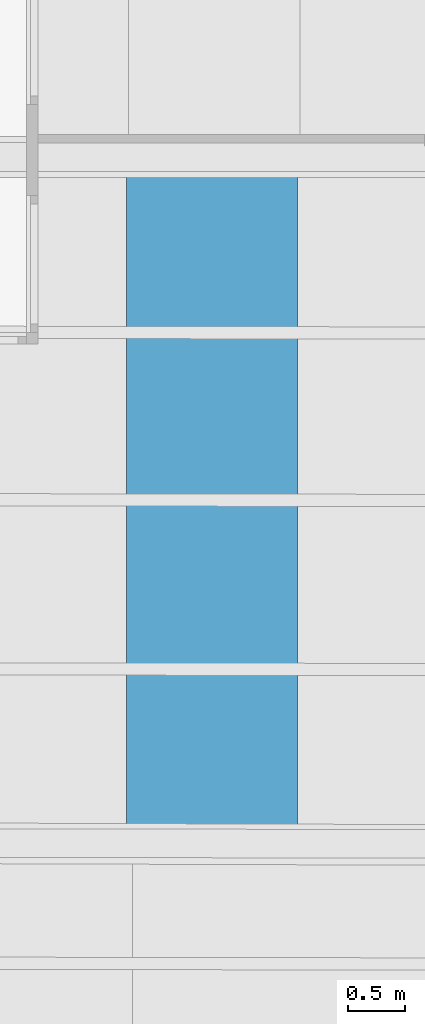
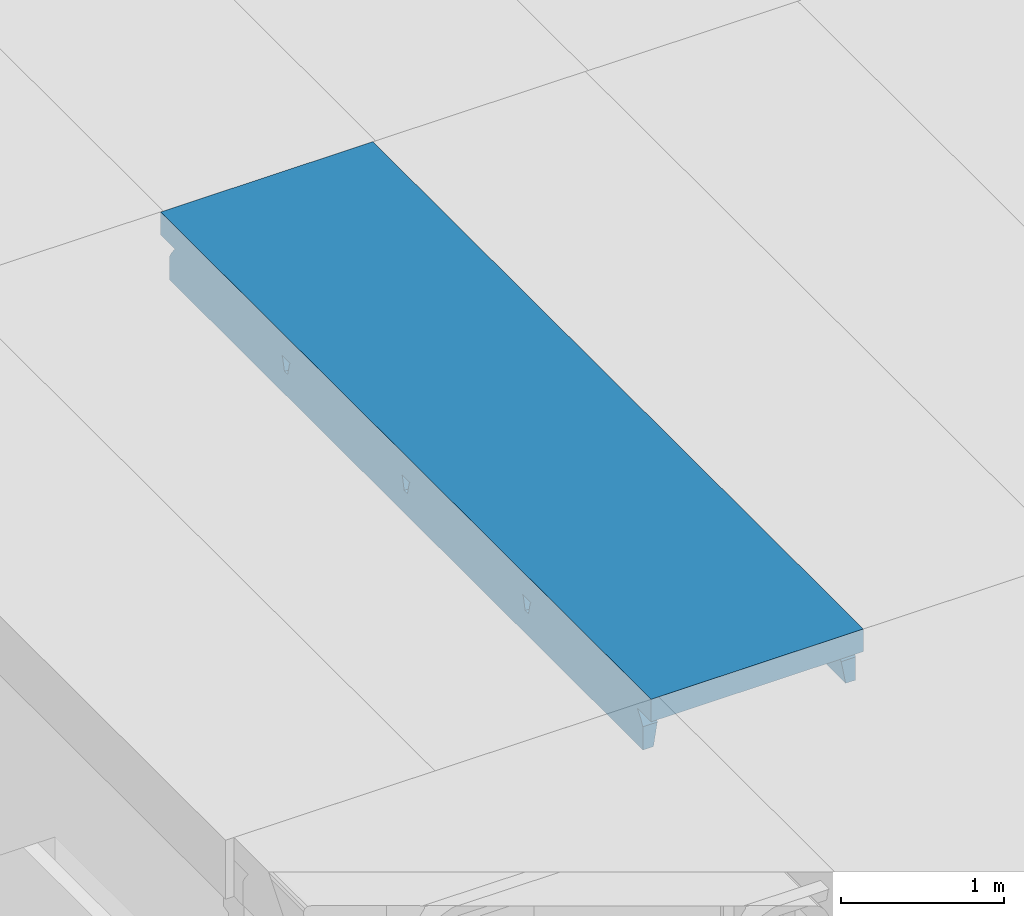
# One storey, part 31 of 301: 1 beam.
"""IFC2X3 building model written with IfcOpenShell, lengths in millimetres."""

import ifcopenshell
import ifcopenshell.guid

model = None  # the IFC model being written
_history = None  # IfcOwnerHistory: only IFC2X3 demands one
_inside = {}  # id of a spatial element -> (the spatial element, [elements in it])
_under = {}  # id of a project, library or spatial element -> (it, [spatial elements below it])
_declared = {}  # id of a project -> (the project, [libraries it declares])
_typed = {}  # id of a type object -> (the type object, [elements of that type])
_made_of = {}  # id of a material, layer set ... -> (it, [elements and type objects made of it])


def new_model(schema):
    """Start an empty IFC model of exactly this schema.

    Asked for "IFC4X3", IfcOpenShell would pick the latest addendum, in which some entities
    have other attributes; the version numbers below select the first issue.
    IFC2X3 requires an IfcOwnerHistory on every rooted entity: one is made here for all.
    """
    global model, _history
    if schema == "IFC4X3":
        model = ifcopenshell.file(schema_version=(4, 3, 0, 0))
    else:
        model = ifcopenshell.file(schema=schema)
    _inside.clear()
    _under.clear()
    _declared.clear()
    _typed.clear()
    _made_of.clear()
    _history = None
    if model.schema == "IFC2X3":
        org = make("IfcOrganization", Name="unknown")
        user = make(
            "IfcPersonAndOrganization",
            ThePerson=make("IfcPerson", FamilyName="unknown"),
            TheOrganization=org,
        )
        app = make(
            "IfcApplication",
            ApplicationDeveloper=org,
            Version="unknown",
            ApplicationFullName="unknown",
            ApplicationIdentifier="unknown",
        )
        _history = make(
            "IfcOwnerHistory",
            OwningUser=user,
            OwningApplication=app,
            ChangeAction="ADDED",
            CreationDate=0,
        )
    return model


def make(cls, **values):
    """One entity of the class cls with the attributes given. An attribute that is None is left unset."""
    return model.create_entity(
        cls, **{name: value for name, value in values.items() if value is not None}
    )


def entity(cls, *values):
    """Any entity or typed value of the class cls, its attributes in the order of the schema. None: left unset."""
    e = model.create_entity(cls)
    for i, value in enumerate(values):
        if value is not None:
            e[i] = value
    return e


def rooted(cls, **values):
    """An entity with a GlobalId (a new one), such as an element, a storey or a relation."""
    return make(cls, GlobalId=ifcopenshell.guid.new(), OwnerHistory=_history, **values)


def si_unit(unit_type, name, prefix=None):
    """IfcSIUnit, for example si_unit("LENGTHUNIT", "METRE", prefix="MILLI")."""
    return make("IfcSIUnit", UnitType=unit_type, Prefix=prefix, Name=name)


def converted_unit(unit_type, name, factor, base, dimensions=None, offset=None):
    """IfcConversionBasedUnit, such as the inch: factor (a typed value) times the base unit."""
    return make(
        "IfcConversionBasedUnit"
        if offset is None
        else "IfcConversionBasedUnitWithOffset",
        ConversionOffset=offset,
        Dimensions=None
        if dimensions is None
        else entity("IfcDimensionalExponents", *dimensions),
        UnitType=unit_type,
        Name=name,
        ConversionFactor=make(
            "IfcMeasureWithUnit", ValueComponent=factor, UnitComponent=base
        ),
    )


def derived_unit(unit_type, elements):
    """IfcDerivedUnit: a product of units, each with its exponent."""
    return make(
        "IfcDerivedUnit",
        Elements=[
            make("IfcDerivedUnitElement", Unit=unit, Exponent=power)
            for unit, power in elements
        ],
        UnitType=unit_type,
    )


def money_unit(currency):
    """IfcMonetaryUnit."""
    return make("IfcMonetaryUnit", Currency=currency)


def assignment(units):
    """IfcUnitAssignment: the units of a project."""
    return None if units is None else make("IfcUnitAssignment", Units=units)


def point(xyz):
    """IfcCartesianPoint."""
    return None if xyz is None else make("IfcCartesianPoint", Coordinates=xyz)


def direction(xyz):
    """IfcDirection."""
    return None if xyz is None else make("IfcDirection", DirectionRatios=xyz)


def frame(location, z_axis=None, x_axis=None):
    """IfcAxis2Placement3D, a coordinate frame: its origin and axes. An axis left out is left unset."""
    return make(
        "IfcAxis2Placement3D",
        Location=point(location),
        Axis=direction(z_axis),
        RefDirection=direction(x_axis),
    )


def origin_with_axes():
    """The frame at (0, 0, 0) with the z axis (0, 0, 1) and the x axis (1, 0, 0) written out."""
    return frame((0.0, 0.0, 0.0), z_axis=(0.0, 0.0, 1.0), x_axis=(1.0, 0.0, 0.0))


def place(relative_to, where):
    """IfcLocalPlacement: puts the frame where relative to a parent placement (None: the world)."""
    return make(
        "IfcLocalPlacement", PlacementRelTo=relative_to, RelativePlacement=where
    )


def context(
    kind, dimensions, precision=None, world=None, true_north=None, identifier=None
):
    """IfcGeometricRepresentationContext, for example the 3D "Model" context."""
    return make(
        "IfcGeometricRepresentationContext",
        ContextIdentifier=identifier,
        ContextType=kind,
        CoordinateSpaceDimension=dimensions,
        Precision=precision,
        WorldCoordinateSystem=world,
        TrueNorth=true_north,
    )


def subcontext(parent, identifier, kind, view, scale=None):
    """IfcGeometricRepresentationSubContext, for example "Body" below "Model"."""
    return make(
        "IfcGeometricRepresentationSubContext",
        ContextIdentifier=identifier,
        ContextType=kind,
        ParentContext=parent,
        TargetScale=scale,
        TargetView=view,
    )


def project(units=None, contexts=None):
    """IfcProject with its units and contexts."""
    return rooted(
        "IfcProject",
        Name="project",
        RepresentationContexts=contexts,
        UnitsInContext=assignment(units),
    )


def spatial(cls, under=None, at=None, **own):
    """A site, building, storey or space (cls), placed at a placement, below another one or the project."""
    s = rooted(cls, ObjectPlacement=at, **own)
    if under is not None:
        _under.setdefault(under.id(), (under, []))[1].append(s)
    return s


def faces_of(points, faces, orient=None, outer=None):
    """IfcFace entities. A face is a list of loops; a loop is a list of indices into points, from 0.

    orient and outer hold one flag for each loop. By default every Orientation is true, the
    first loop of a face is its IfcFaceOuterBound and the others are IfcFaceBound.
    """
    made = []
    for i, loops in enumerate(faces):
        bounds = []
        for j, loop in enumerate(loops):
            is_outer = j == 0 if outer is None else outer[i][j]
            bounds.append(
                make(
                    "IfcFaceOuterBound" if is_outer else "IfcFaceBound",
                    Bound=make("IfcPolyLoop", Polygon=[points[k] for k in loop]),
                    Orientation=True if orient is None else orient[i][j],
                )
            )
        made.append(make("IfcFace", Bounds=bounds))
    return made


def faceted_brep(points, faces, orient=None, outer=None, voids=None):
    """IfcFacetedBrep: a solid bounded by flat faces; with voids (closed shells), ...WithVoids."""
    shared = [point(p) for p in points]
    hull = make("IfcClosedShell", CfsFaces=faces_of(shared, faces, orient, outer))
    if voids is None:
        return make("IfcFacetedBrep", Outer=hull)
    return make(
        "IfcFacetedBrepWithVoids",
        Outer=hull,
        Voids=[
            make(cls, CfsFaces=faces_of(shared, fs, o, b)) for cls, fs, o, b in voids
        ],
    )


def shape(context_of_items, identifier, shape_type, items):
    """IfcShapeRepresentation: the items that make up one representation, for example the "Body"."""
    return make(
        "IfcShapeRepresentation",
        ContextOfItems=context_of_items,
        RepresentationIdentifier=identifier,
        RepresentationType=shape_type,
        Items=items,
    )


def material(Name=None, Category=None):
    """IfcMaterial."""
    return make("IfcMaterial", Name=Name, Category=Category)


def made_of(thing, what):
    """Note that an element or type object is made of a material, layer set ...; save() writes the relation."""
    if what is not None:
        _made_of.setdefault(what.id(), (what, []))[1].append(thing)
    return thing


def type_object(cls, material=None, **own):
    """A type object (cls), such as IfcWallType, which elements share."""
    return made_of(rooted(cls, **own), material)


def element(
    cls,
    number,
    at=None,
    inside=None,
    cuts=None,
    type_object=None,
    material=None,
    context=None,
    identifier="Body",
    shape_type=None,
    held_by="IfcProductDefinitionShape",
    body=None,
    shapes=None,
    **own,
):
    """One element of the class cls, such as IfcWall. Its Tag is "e" and its number.

    at: its placement. inside: the storey or other place that contains it. cuts: it is an
    opening in that element (IfcRelVoidsElement). A single representation is given by context,
    identifier, shape_type and body (its items); several are given by shapes. held_by: the class
    of the entity that holds the representations. save() writes the other relations.
    """
    e = rooted(cls, Tag="e%d" % number, ObjectPlacement=at, **own)
    if body is not None:
        shapes = [shape(context, identifier, shape_type, body)]
    if shapes is not None:
        e.Representation = make(held_by, Representations=shapes)
    if inside is not None:
        _inside.setdefault(inside.id(), (inside, []))[1].append(e)
    if cuts is not None:
        rooted(
            "IfcRelVoidsElement", RelatingBuildingElement=cuts, RelatedOpeningElement=e
        )
    if type_object is not None:
        _typed.setdefault(type_object.id(), (type_object, []))[1].append(e)
    return made_of(e, material)


def aggregate(whole, parts):
    """IfcRelAggregates: a whole, such as a stair, and the parts it consists of."""
    return rooted("IfcRelAggregates", RelatingObject=whole, RelatedObjects=parts)


def save(model, path):
    """Write the relations noted so far, then the file.

    IfcRelAggregates (storeys below a building ...), IfcRelContainedInSpatialStructure (elements
    in a storey), IfcRelDefinesByType, IfcRelAssociatesMaterial and IfcRelDeclares: one each for
    every whole, place, type object, material and project.
    """
    for whole, parts in _under.values():
        aggregate(whole, parts)
    for where, things in _inside.values():
        rooted(
            "IfcRelContainedInSpatialStructure",
            RelatedElements=things,
            RelatingStructure=where,
        )
    for kind, things in _typed.values():
        rooted("IfcRelDefinesByType", RelatedObjects=things, RelatingType=kind)
    for what, things in _made_of.values():
        rooted("IfcRelAssociatesMaterial", RelatedObjects=things, RelatingMaterial=what)
    for by, libraries in _declared.values():
        rooted("IfcRelDeclares", RelatingContext=by, RelatedDefinitions=libraries)
    model.write(path)


model = new_model("IFC2X3")

# Units and contexts
model_context = context("Model", 3, precision=0.01, world=origin_with_axes(), true_north=direction((0.0, 1.0)))
body_context = subcontext(model_context, "Body", "Model", "MODEL_VIEW")
ifc_project = project(units=[si_unit("LENGTHUNIT", "METRE", prefix="MILLI"), si_unit("AREAUNIT", "SQUARE_METRE"), si_unit("VOLUMEUNIT", "CUBIC_METRE"), converted_unit("PLANEANGLEUNIT", "DEGREE", entity("IfcPlaneAngleMeasure", 0.0174532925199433), si_unit("PLANEANGLEUNIT", "RADIAN"), dimensions=[0, 0, 0, 0, 0, 0, 0]), money_unit("EUR"), converted_unit("TIMEUNIT", "Year", entity("IfcTimeMeasure", 31557600.0), si_unit("TIMEUNIT", "SECOND"), dimensions=[0, 0, 1, 0, 0, 0, 0]), si_unit("MASSUNIT", "GRAM", prefix="KILO"), si_unit("THERMODYNAMICTEMPERATUREUNIT", "DEGREE_CELSIUS"), si_unit("LUMINOUSINTENSITYUNIT", "LUMEN"), si_unit("ENERGYUNIT", "JOULE", prefix="MEGA"), derived_unit("THERMALCONDUCTANCEUNIT", [(si_unit("POWERUNIT", "WATT"), 1), (si_unit("LENGTHUNIT", "METRE"), -1), (si_unit("THERMODYNAMICTEMPERATUREUNIT", "KELVIN"), -1)]), derived_unit("SPECIFICHEATCAPACITYUNIT", [(si_unit("ENERGYUNIT", "JOULE"), 1), (si_unit("MASSUNIT", "GRAM", prefix="KILO"), -1), (si_unit("THERMODYNAMICTEMPERATUREUNIT", "KELVIN"), -1)]), derived_unit("MASSDENSITYUNIT", [(si_unit("MASSUNIT", "GRAM", prefix="KILO"), 1), (si_unit("VOLUMEUNIT", "CUBIC_METRE"), -1)])], contexts=[model_context])

# Site, building, storey
site_placement = place(None, frame((0.0, 0.0, 8650.0), z_axis=(0.0, 0.0, 1.0), x_axis=(1.0, 0.0, 0.0)))
site = spatial("IfcSite", under=ifc_project, at=site_placement, Name="43301:001:0844", CompositionType="ELEMENT")
building_placement = place(site_placement, origin_with_axes())
building = spatial("IfcBuilding", under=site, at=building_placement, Name="Kuressaare Ametikooli tuulikute mehaanikute õppekorpus", CompositionType="ELEMENT")
storey_placement = place(building_placement, origin_with_axes())
storey = spatial("IfcBuildingStorey", under=building, at=storey_placement, Name="1.korrus", CompositionType="ELEMENT", Elevation=0.0)

# Beam
ifc_material = material(Name="GENEERILINE - KONSTRUKTRIOON")
beam_type = type_object("IfcBeamType", Name="Precast Double Tee 2 1500 x 440", PredefinedType="NOTDEFINED")
beam_placement = place(storey_placement, frame((91955.87775377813, 50087.6053764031, 7100.0), z_axis=(0.0, 0.0, 1.0), x_axis=(-1.0, 0.0, 0.0)))
element("IfcBeam", 1, at=beam_placement, inside=storey, type_object=beam_type, material=ifc_material, context=body_context, shape_type="Brep", body=[
    faceted_brep([(750.0, 0.0, 0.0), (750.0, 6002.453090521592, 0.0), (-750.0, 6002.453090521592, 0.0), (-750.0, 0.0, 0.0), (750.0, 5833.427182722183, -168.9999999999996), (750.0, 6002.453090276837, -168.9999999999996), (750.0, 0.0, -169.8234995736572), (750.0, 176.7132143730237, -169.8234995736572), (750.0, 165.7506661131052, -181.3563575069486), (750.0, 134.078188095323, -222.3718083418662), (750.0, 108.4861974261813, -267.4324680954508), (750.0, 108.4856748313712, -440.0001340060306), (750.0, 5901.655114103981, -440.0001340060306), (750.0, 5901.654589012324, -266.6089685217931), (750.0, 5876.06245230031, -221.5483087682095), (750.0, 5844.389793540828, -180.5328579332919), (750.0, 1588.788082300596, -169.8234995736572), (750.0, 1580.589224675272, -175.3978342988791), (750.0, 1576.014605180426, -184.1936973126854), (750.0, 1555.274619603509, -271.7709778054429), (750.0, 1515.274565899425, -271.7709778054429), (750.0, 1494.533618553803, -184.1935020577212), (750.0, 1489.958978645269, -175.3977593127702), (750.0, 1481.760187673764, -169.8234995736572), (750.0, 3046.429925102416, -175.3978342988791), (750.0, 3041.855305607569, -184.1936973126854), (750.0, 3021.115320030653, -271.7709778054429), (750.0, 2981.115266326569, -271.7709778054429), (750.0, 2960.374318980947, -184.1935020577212), (750.0, 2955.799679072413, -175.3977593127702), (750.0, 2947.600888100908, -169.8234995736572), (750.0, 3054.62878272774, -169.8234995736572), (750.0, 4521.947605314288, -184.1936973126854), (750.0, 4501.207619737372, -271.7709778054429), (750.0, 4461.207566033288, -271.7709778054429), (750.0, 4440.466618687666, -184.1935020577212), (750.0, 4435.891978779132, -175.3977593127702), (750.0, 4427.693187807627, -169.8234995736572), (750.0, 4534.721082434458, -169.8234995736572), (750.0, 4526.522224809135, -175.3978342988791), (-750.0, 6002.453090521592, -168.9999999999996), (-750.0, 0.0, -169.8234995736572), (-750.0, 5838.511972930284, -168.9999999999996), (-750.0, 5849.474583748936, -180.5328579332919), (-750.0, 5881.147242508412, -221.5483087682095), (-750.0, 5906.739379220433, -266.6089685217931), (-750.0, 5906.739904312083, -440.0001340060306), (-750.0, 108.9044611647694, -440.0001340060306), (-750.0, 108.9049837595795, -267.4324680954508), (-750.0, 134.4969744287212, -222.3718083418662), (-750.0, 166.1694524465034, -181.3563575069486), (-750.0, 177.1320007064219, -169.8234995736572), (-750.0, 1492.416968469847, -175.3977593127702), (-750.0, 1496.99160837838, -184.1935020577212), (-750.0, 1517.732555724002, -271.7709778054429), (-750.0, 1557.732609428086, -271.7709778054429), (-750.0, 1578.472595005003, -184.1936973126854), (-750.0, 1583.04721449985, -175.3978342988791), (-750.0, 1591.246072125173, -169.8234995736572), (-750.0, 1484.218177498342, -169.8234995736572), (-750.0, 2962.832308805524, -184.1935020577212), (-750.0, 2983.573256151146, -271.7709778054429), (-750.0, 3023.57330985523, -271.7709778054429), (-750.0, 3044.313295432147, -184.1936973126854), (-750.0, 3048.887914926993, -175.3978342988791), (-750.0, 3057.086772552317, -169.8234995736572), (-750.0, 2950.058877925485, -169.8234995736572), (-750.0, 2958.257668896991, -175.3977593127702), (-750.0, 4463.665555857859, -271.7709778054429), (-750.0, 4503.665609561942, -271.7709778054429), (-750.0, 4524.405595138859, -184.1936973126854), (-750.0, 4528.980214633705, -175.3978342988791), (-750.0, 4537.179072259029, -169.8234995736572), (-750.0, 4430.151177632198, -169.8234995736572), (-750.0, 4438.349968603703, -175.3977593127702), (-750.0, 4442.924608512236, -184.1935020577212), (-586.8200850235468, 0.0, -169.8234995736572), (584.2531439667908, 0.0, -169.8234995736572), (584.2531439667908, 176.7594893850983, -169.8234995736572), (604.310838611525, 173.2536883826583, -173.5057932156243), (617.2693537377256, 165.7877233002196, -181.3563575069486), (621.7526411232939, 163.6890933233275, -184.072435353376), (634.3038197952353, 151.2739550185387, -200.1453415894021), (640.3274701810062, 136.2273607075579, -219.6283094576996), (640.7591226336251, 134.1086871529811, -222.3718083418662), (647.8488081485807, 108.5147171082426, -267.4324680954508), (674.9999969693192, 108.5066141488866, -440.0001340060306), (674.9999969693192, 5901.90935362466, -440.0001340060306), (647.7192416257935, 5902.001306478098, -266.6089685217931), (640.6295561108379, 5876.433202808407, -221.5483087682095), (615.9100461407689, 5844.844339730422, -180.5328579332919), (640.3274701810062, 5874.951578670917, -219.6283094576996), (634.3038197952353, 5859.926999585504, -200.1453415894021), (621.7526411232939, 5847.557841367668, -184.072435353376), (604.310838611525, 5838.204050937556, -173.5057932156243), (584.2531439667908, 5834.771822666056, -169.8234995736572), (-586.8200850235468, 5838.741597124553, -169.8234995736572), (-604.4404036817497, 5840.844990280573, -171.9734684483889), (-620.1516209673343, 5848.751443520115, -180.2351660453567), (-620.4148263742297, 5849.03530813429, -180.5328579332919), (584.2531439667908, 1589.059685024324, -169.8234995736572), (604.310838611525, 1583.610816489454, -173.5057932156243), (607.4339316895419, 1580.8228419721, -175.3978342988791), (621.7526411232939, 1576.28782582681, -184.072435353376), (621.8473334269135, 1576.224603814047, -184.1936973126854), (634.3038197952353, 1572.426535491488, -200.1453415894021), (640.3274701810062, 1567.80272300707, -219.6283094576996), (648.5314139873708, 1555.440892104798, -271.7709778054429), (648.5314139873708, 1515.440838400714, -271.7709778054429), (621.847180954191, 1494.743617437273, -184.1935020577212), (640.3274701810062, 1503.105349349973, -219.6283094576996), (634.3038197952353, 1498.501074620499, -200.1453415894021), (621.7526411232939, 1494.680805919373, -184.072435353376), (607.4338079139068, 1490.192596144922, -175.3977593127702), (604.310838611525, 1487.41495227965, -173.5057932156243), (584.2531439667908, 1482.031790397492, -169.8234995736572), (621.7526411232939, 3042.128526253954, -184.072435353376), (621.8473334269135, 3042.065304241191, -184.1936973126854), (607.4339316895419, 3046.663542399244, -175.3978342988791), (640.3274701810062, 3033.643423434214, -219.6283094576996), (648.5314139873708, 3021.281592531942, -271.7709778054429), (634.3038197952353, 3038.267235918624, -200.1453415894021), (648.5314139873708, 2981.281538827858, -271.7709778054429), (640.3274701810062, 2968.946049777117, -219.6283094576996), (634.3038197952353, 2964.341775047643, -200.1453415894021), (621.8471809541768, 2960.584317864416, -184.1935020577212), (607.4338079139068, 2956.033296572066, -175.3977593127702), (621.7526411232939, 2960.521506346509, -184.072435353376), (584.2531439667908, 2947.872490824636, -169.8234995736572), (604.310838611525, 2953.255652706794, -173.5057932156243), (584.2531439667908, 3054.900385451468, -169.8234995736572), (604.310838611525, 3049.451516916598, -173.5057932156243), (648.5314139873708, 4501.373892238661, -271.7709778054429), (621.8473334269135, 4522.157603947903, -184.1936973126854), (634.3038197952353, 4518.359535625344, -200.1453415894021), (640.3274701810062, 4513.735723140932, -219.6283094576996), (648.5314139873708, 4461.373838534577, -271.7709778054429), (640.3274701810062, 4449.038349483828, -219.6283094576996), (634.3038197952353, 4444.434074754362, -200.1453415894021), (621.8471809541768, 4440.676617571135, -184.1935020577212), (621.7526411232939, 4440.613806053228, -184.072435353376), (607.4338079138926, 4436.125596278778, -175.3977593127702), (604.310838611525, 4433.347952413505, -173.5057932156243), (584.2531439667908, 4427.964790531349, -169.8234995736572), (584.2531439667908, 4534.992685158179, -169.8234995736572), (607.4339316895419, 4526.755842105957, -175.3978342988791), (604.310838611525, 4529.54381662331, -173.5057932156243), (621.7526411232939, 4522.220825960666, -184.072435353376), (-631.90952567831, 5859.113652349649, -193.5336498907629), (-638.1842783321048, 5871.957504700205, -210.1386333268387), (-640.2598926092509, 5880.775238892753, -221.5483087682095), (-648.457194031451, 5906.395163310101, -266.6089685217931), (-680.0000000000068, 5906.502614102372, -440.0001340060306), (-680.0000000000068, 108.8849178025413, -440.0001340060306), (-648.6070026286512, 108.8766757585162, -267.4324680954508), (-640.4097012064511, 134.4663778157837, -222.3718083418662), (-621.1429266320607, 166.1334767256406, -181.3563575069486), (-638.1842783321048, 143.9123177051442, -210.1386333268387), (-631.9095256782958, 156.7330744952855, -193.5336498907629), (-586.8200850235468, 177.0864423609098, -169.8234995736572), (-620.1516209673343, 167.1989475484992, -180.2351660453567), (-604.4404036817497, 175.0477107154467, -171.9734684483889), (-610.9523556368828, 1492.189116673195, -175.3977593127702), (-620.1516209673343, 1494.720112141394, -180.2351660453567), (-623.651398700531, 1496.784565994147, -184.1935020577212), (-631.9095256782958, 1499.010122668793, -193.5336498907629), (-638.1842783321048, 1502.952958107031, -210.1386333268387), (-649.3962514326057, 1517.567700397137, -271.7709778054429), (-649.3962514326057, 1557.567754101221, -271.7709778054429), (-638.1842783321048, 1572.145106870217, -210.1386333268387), (-631.9095256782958, 1576.06720435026, -193.5336498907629), (-623.651571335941, 1578.265552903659, -184.1936973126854), (-620.1516209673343, 1580.318600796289, -180.2351660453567), (-610.952498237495, 1582.819362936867, -175.3978342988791), (-604.4404036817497, 1587.845326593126, -171.9734684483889), (-586.8200850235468, 1590.978675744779, -169.8234995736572), (-586.8200850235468, 1483.950781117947, -169.8234995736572), (-604.4404036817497, 1487.141894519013, -171.9734684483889), (-623.651398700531, 2962.625266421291, -184.1935020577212), (-631.9095256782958, 2964.850823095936, -193.5336498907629), (-638.1842783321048, 2968.793658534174, -210.1386333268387), (-649.3962514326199, 2983.408400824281, -271.7709778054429), (-649.3962514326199, 3023.408454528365, -271.7709778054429), (-638.1842783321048, 3037.98580729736, -210.1386333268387), (-631.9095256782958, 3041.907904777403, -193.5336498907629), (-623.651571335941, 3044.106253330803, -184.1936973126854), (-620.1516209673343, 3046.159301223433, -180.2351660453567), (-610.952498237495, 3048.660063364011, -175.3978342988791), (-604.4404036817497, 3053.686027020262, -171.9734684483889), (-586.8200850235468, 3056.819376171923, -169.8234995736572), (-586.8200850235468, 2949.791481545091, -169.8234995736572), (-604.4404036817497, 2952.982594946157, -171.9734684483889), (-610.952355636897, 2958.029817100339, -175.3977593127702), (-620.1516209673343, 2960.560812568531, -180.2351660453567), (-649.3962514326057, 4463.500700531, -271.7709778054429), (-649.3962514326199, 4503.500754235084, -271.7709778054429), (-638.1842783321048, 4518.078107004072, -210.1386333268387), (-631.90952567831, 4522.000204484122, -193.5336498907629), (-623.651571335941, 4524.198553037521, -184.1936973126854), (-620.1516209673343, 4526.251600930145, -180.2351660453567), (-610.952498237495, 4528.75236307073, -175.3978342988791), (-604.4404036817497, 4533.778326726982, -171.9734684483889), (-586.8200850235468, 4536.911675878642, -169.8234995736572), (-586.8200850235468, 4429.88378125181, -169.8234995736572), (-604.4404036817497, 4433.074894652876, -171.9734684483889), (-610.952355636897, 4438.122116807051, -175.3977593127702), (-620.1516209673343, 4440.653112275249, -180.2351660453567), (-623.651398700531, 4442.717566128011, -184.1935020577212), (-631.9095256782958, 4444.943122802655, -193.5336498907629), (-638.1842783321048, 4448.885958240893, -210.1386333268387)], [[[0, 1, 2, 3]], [[4, 5, 1, 0, 6, 7, 8, 9, 10, 11, 12, 13, 14, 15], [16, 17, 18, 19, 20, 21, 22, 23], [24, 25, 26, 27, 28, 29, 30, 31], [32, 33, 34, 35, 36, 37, 38, 39]], [[2, 1, 5, 40]], [[41, 3, 2, 40, 42, 43, 44, 45, 46, 47, 48, 49, 50, 51], [52, 53, 54, 55, 56, 57, 58, 59], [60, 61, 62, 63, 64, 65, 66, 67], [68, 69, 70, 71, 72, 73, 74, 75]], [[3, 41, 76, 77, 6, 0]], [[40, 5, 4, 42]], [[77, 78, 7, 6]], [[8, 7, 78, 79, 80]], [[80, 81, 82, 83, 84, 9, 8]], [[85, 10, 9, 84]], [[86, 11, 10, 85]], [[11, 86, 87, 12]], [[13, 12, 87, 88]], [[14, 13, 88, 89]], [[90, 15, 14, 89, 91, 92, 93]], [[94, 95, 96, 97, 98, 99, 43, 42, 4, 15, 90]], [[100, 101, 102, 17, 16]], [[102, 103, 104, 18, 17]], [[105, 106, 107, 19, 18, 104]], [[19, 107, 108, 20]], [[109, 21, 20, 108, 110, 111]], [[112, 113, 22, 21, 109]], [[114, 115, 23, 22, 113]], [[23, 115, 100, 16]], [[116, 117, 25, 24, 118]], [[119, 120, 26, 25, 117, 121]], [[120, 122, 27, 26]], [[28, 27, 122, 123, 124, 125]], [[126, 29, 28, 125, 127]], [[128, 30, 29, 126, 129]], [[128, 130, 31, 30]], [[131, 118, 24, 31, 130]], [[132, 33, 32, 133, 134, 135]], [[136, 34, 33, 132]], [[34, 136, 137, 138, 139, 35]], [[36, 35, 139, 140, 141]], [[37, 36, 141, 142, 143]], [[144, 38, 37, 143]], [[145, 39, 38, 144, 146]], [[133, 32, 39, 145, 147]], [[44, 43, 99, 148, 149, 150]], [[150, 151, 45, 44]], [[151, 152, 46, 45]], [[153, 47, 46, 152]], [[47, 153, 154, 48]], [[48, 154, 155, 49]], [[156, 50, 49, 155, 157, 158]], [[159, 51, 50, 156, 160, 161]], [[41, 51, 159, 76]], [[53, 52, 162, 163, 164]], [[53, 164, 165, 166, 167, 54]], [[168, 55, 54, 167]], [[55, 168, 169, 170, 171, 56]], [[57, 56, 171, 172, 173]], [[58, 57, 173, 174, 175]], [[176, 59, 58, 175]], [[52, 59, 176, 177, 162]], [[178, 179, 180, 181, 61, 60]], [[62, 61, 181, 182]], [[182, 183, 184, 185, 63, 62]], [[63, 185, 186, 187, 64]], [[64, 187, 188, 189, 65]], [[66, 65, 189, 190]], [[66, 190, 191, 192, 67]], [[67, 192, 193, 178, 60]], [[68, 194, 195, 69]], [[196, 197, 198, 70, 69, 195]], [[198, 199, 200, 71, 70]], [[200, 201, 202, 72, 71]], [[72, 202, 203, 73]], [[203, 204, 205, 74, 73]], [[205, 206, 207, 75, 74]], [[208, 209, 194, 68, 75, 207]], [[175, 190, 189, 203, 202, 96, 95, 144, 143, 130, 128, 100, 115, 78, 77, 76, 159, 176]], [[78, 115, 114, 79]], [[112, 81, 80, 79, 114, 113]], [[109, 111, 82, 81, 112]], [[82, 111, 110, 83]], [[119, 137, 136, 132, 135, 91, 89, 88, 87, 86, 85, 84, 83, 110, 108, 107, 106, 123, 122, 120]], [[134, 92, 91, 135]], [[93, 92, 134, 133, 147]], [[90, 93, 147, 145, 146, 94]], [[144, 95, 94, 146]], [[201, 97, 96, 202]], [[98, 97, 201, 200, 199]], [[99, 98, 199, 198, 197, 148]], [[128, 129, 101, 100]], [[103, 102, 101, 129, 126, 127]], [[105, 104, 103, 127, 125, 124]], [[124, 123, 106, 105]], [[117, 116, 140, 139, 138, 121]], [[118, 131, 142, 141, 140, 116]], [[137, 119, 121, 138]], [[142, 131, 130, 143]], [[196, 149, 148, 197]], [[151, 150, 149, 196, 195, 194, 209, 183, 182, 181, 180, 169, 168, 167, 166, 157, 155, 154, 153, 152]], [[157, 166, 165, 158]], [[163, 160, 156, 158, 165, 164]], [[162, 177, 161, 160, 163]], [[161, 177, 176, 159]], [[180, 179, 170, 169]], [[172, 171, 170, 179, 178, 193]], [[174, 173, 172, 193, 192, 191]], [[191, 190, 175, 174]], [[208, 184, 183, 209]], [[185, 184, 208, 207, 206, 186]], [[187, 186, 206, 205, 204, 188]], [[203, 189, 188, 204]]]),
])

save(model, "model.ifc")
